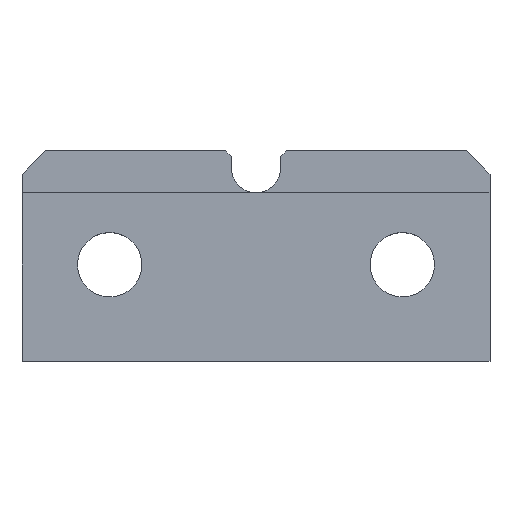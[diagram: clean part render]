
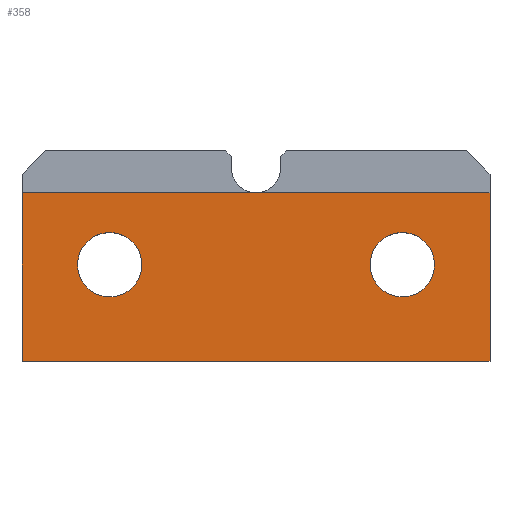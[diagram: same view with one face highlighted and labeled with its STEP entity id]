
A CAD part, top view. The second image highlights one B-rep face of the part: STEP entity #358.
In plain terms, the highlighted planar face has unit normal (0, 0, 1).
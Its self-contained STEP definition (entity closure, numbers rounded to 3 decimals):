
#79=AXIS2_PLACEMENT_3D('Circle Axis2P3D',#77,#78,$) ;
#114=AXIS2_PLACEMENT_3D('Circle Axis2P3D',#112,#113,$) ;
#136=AXIS2_PLACEMENT_3D('Circle Axis2P3D',#134,#135,$) ;
#171=AXIS2_PLACEMENT_3D('Circle Axis2P3D',#169,#170,$) ;
#323=AXIS2_PLACEMENT_3D('Plane Axis2P3D',#320,#321,#322) ;
#43=CARTESIAN_POINT('Vertex',(0.,-18.,2.)) ;
#57=CARTESIAN_POINT('Vertex',(40.,-18.,2.)) ;
#60=CARTESIAN_POINT('Line Origine',(20.,-18.,2.)) ;
#77=CARTESIAN_POINT('Axis2P3D Location',(32.5,-9.75,2.)) ;
#81=CARTESIAN_POINT('Vertex',(35.25,-9.75,2.)) ;
#83=CARTESIAN_POINT('Vertex',(29.75,-9.75,2.)) ;
#112=CARTESIAN_POINT('Axis2P3D Location',(32.5,-9.75,2.)) ;
#134=CARTESIAN_POINT('Axis2P3D Location',(7.5,-9.75,2.)) ;
#138=CARTESIAN_POINT('Vertex',(10.25,-9.75,2.)) ;
#140=CARTESIAN_POINT('Vertex',(4.75,-9.75,2.)) ;
#169=CARTESIAN_POINT('Axis2P3D Location',(7.5,-9.75,2.)) ;
#320=CARTESIAN_POINT('Axis2P3D Location',(0.,0.,2.)) ;
#325=CARTESIAN_POINT('Line Origine',(0.,-10.8,2.)) ;
#329=CARTESIAN_POINT('Vertex',(0.,-3.6,2.)) ;
#332=CARTESIAN_POINT('Line Origine',(40.,-10.8,2.)) ;
#336=CARTESIAN_POINT('Vertex',(40.,-3.6,2.)) ;
#339=CARTESIAN_POINT('Line Origine',(20.,-3.6,2.)) ;
#61=DIRECTION('Vector Direction',(-1.,0.,0.)) ;
#78=DIRECTION('Axis2P3D Direction',(0.,0.,-1.)) ;
#113=DIRECTION('Axis2P3D Direction',(0.,0.,-1.)) ;
#135=DIRECTION('Axis2P3D Direction',(0.,0.,-1.)) ;
#170=DIRECTION('Axis2P3D Direction',(0.,0.,-1.)) ;
#321=DIRECTION('Axis2P3D Direction',(0.,0.,1.)) ;
#322=DIRECTION('Axis2P3D XDirection',(1.,0.,0.)) ;
#326=DIRECTION('Vector Direction',(0.,-1.,0.)) ;
#333=DIRECTION('Vector Direction',(0.,1.,0.)) ;
#340=DIRECTION('Vector Direction',(-1.,0.,0.)) ;
#62=VECTOR('Line Direction',#61,1.) ;
#327=VECTOR('Line Direction',#326,1.) ;
#334=VECTOR('Line Direction',#333,1.) ;
#341=VECTOR('Line Direction',#340,1.) ;
#345=ORIENTED_EDGE('',*,*,#331,.T.) ;
#346=ORIENTED_EDGE('',*,*,#64,.T.) ;
#347=ORIENTED_EDGE('',*,*,#338,.T.) ;
#348=ORIENTED_EDGE('',*,*,#343,.F.) ;
#351=ORIENTED_EDGE('',*,*,#173,.F.) ;
#352=ORIENTED_EDGE('',*,*,#142,.F.) ;
#355=ORIENTED_EDGE('',*,*,#116,.F.) ;
#356=ORIENTED_EDGE('',*,*,#85,.F.) ;
#353=FACE_BOUND('',#350,.T.) ;
#357=FACE_BOUND('',#354,.T.) ;
#358=ADVANCED_FACE('\X2\96F64EF651E04F554F53\X0\',(#349,#353,#357),#324,.T.) ;
#80=CIRCLE('generated circle',#79,2.75) ;
#115=CIRCLE('generated circle',#114,2.75) ;
#137=CIRCLE('generated circle',#136,2.75) ;
#172=CIRCLE('generated circle',#171,2.75) ;
#64=EDGE_CURVE('',#44,#58,#63,.F.) ;
#85=EDGE_CURVE('',#82,#84,#80,.F.) ;
#116=EDGE_CURVE('',#84,#82,#115,.F.) ;
#142=EDGE_CURVE('',#139,#141,#137,.F.) ;
#173=EDGE_CURVE('',#141,#139,#172,.F.) ;
#331=EDGE_CURVE('',#330,#44,#328,.T.) ;
#338=EDGE_CURVE('',#58,#337,#335,.T.) ;
#343=EDGE_CURVE('',#330,#337,#342,.F.) ;
#344=EDGE_LOOP('',(#345,#346,#347,#348)) ;
#350=EDGE_LOOP('',(#351,#352)) ;
#354=EDGE_LOOP('',(#355,#356)) ;
#349=FACE_OUTER_BOUND('',#344,.T.) ;
#63=LINE('Line',#60,#62) ;
#328=LINE('Line',#325,#327) ;
#335=LINE('Line',#332,#334) ;
#342=LINE('Line',#339,#341) ;
#324=PLANE('',#323) ;
#44=VERTEX_POINT('',#43) ;
#58=VERTEX_POINT('',#57) ;
#82=VERTEX_POINT('',#81) ;
#84=VERTEX_POINT('',#83) ;
#139=VERTEX_POINT('',#138) ;
#141=VERTEX_POINT('',#140) ;
#330=VERTEX_POINT('',#329) ;
#337=VERTEX_POINT('',#336) ;
